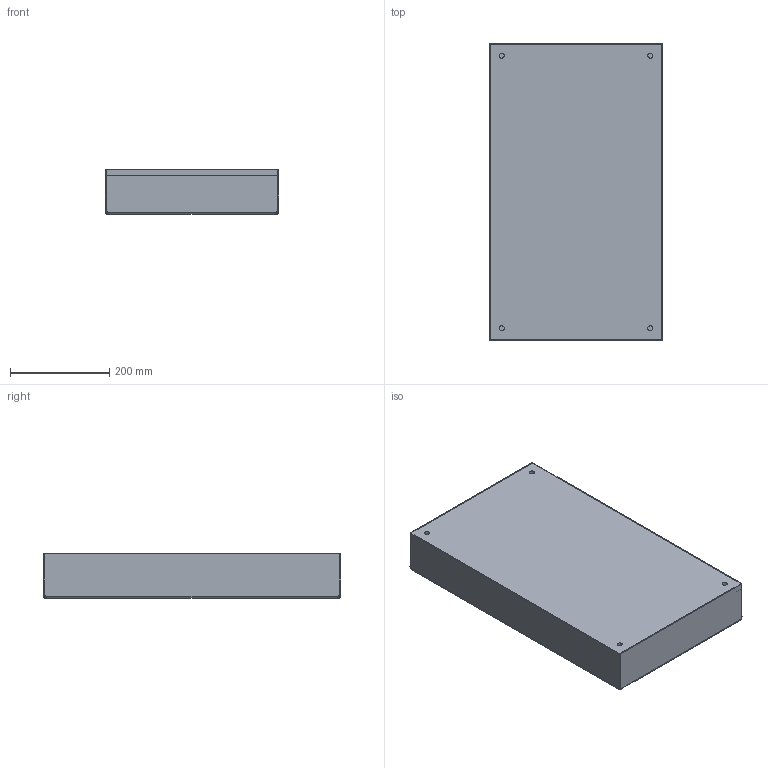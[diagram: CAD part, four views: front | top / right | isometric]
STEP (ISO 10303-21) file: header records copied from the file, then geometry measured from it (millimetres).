
FILE_DESCRIPTION(/* description */ (''),/* implementation_level */ '2;1');
FILE_NAME(/* name */ 'SMB-35-60.step',/* time_stamp */ '2023-07-05T14:16:39+09:00',/* author */ (''),/* organization */ (''),/* preprocessor_version */ 'ST-DEVELOPER v19.2',/* originating_system */ 'Autodesk Translation Framework v12.6.0.85',/* authorisation */ '');
FILE_SCHEMA (('AUTOMOTIVE_DESIGN { 1 0 10303 214 3 1 1 }'));
Length unit declared in the file: millimetre
Products named in the file (1): SMB-35-60
Bounding box: 350 x 600 x 90 mm (x, y, z)
Volume: 3218344.5 mm3; surface area: 1187486 mm2
Topology: 2 solids, 2 shells, 57 faces, 140 edges, 88 vertices
Faces by surface type: bspline 24, plane 17, cylinder 16
Full cylindrical faces by diameter (mm): 10.274 x4
Entity records: 4544 total; most frequent: CARTESIAN_POINT 3246, ORIENTED_EDGE 280, DIRECTION 216, EDGE_CURVE 140, VERTEX_POINT 88, AXIS2_PLACEMENT_3D 82, EDGE_LOOP 66, FACE_OUTER_BOUND 57
